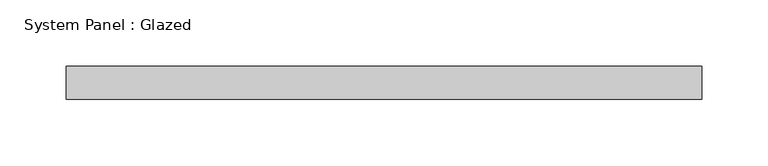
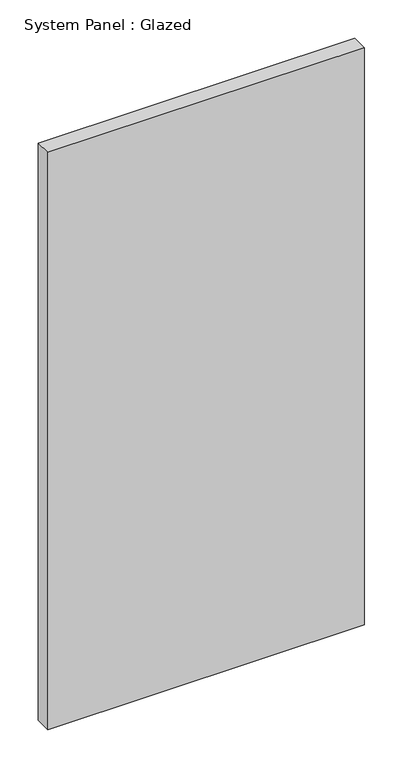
"""IFC4 building model written with IfcOpenShell, lengths in millimetres: plate geometry, System Panel : Glazed."""

from ifc_helpers import new_model, si_unit, origin, origin_with_axes, place, context, project, spatial, polyline, outline, extrude, source, transform, mapped, element, save


def system_panel_glazed_692667b3(model_context):
    return source(origin(), model_context, "Body", "SweptSolid", [
        extrude(outline(polyline([(240.0, 24.5), (-240.0, 24.5), (-240.0, 49.5), (240.0, 49.5), (240.0, 24.5)])), origin_with_axes(), (0.0, 0.0, 1.0), 925.0),
    ])


if __name__ == "__main__":
    model = new_model("IFC4")
    model_context = context("Model", 3, world=origin())
    ifc_project = project(units=[si_unit("LENGTHUNIT", "METRE", prefix="MILLI")], contexts=[model_context])
    site = spatial("IfcSite", under=ifc_project)
    building = spatial("IfcBuilding", under=site)
    placement = place(None, origin())
    system_panel_glazed_shape = system_panel_glazed_692667b3(model_context)
    element("IfcPlate", 1, ObjectType="System Panel : Glazed", at=placement, inside=building, context=model_context, shape_type="MappedRepresentation", body=[
        mapped(system_panel_glazed_shape, transform((0.0, 0.0, 0.0), x_axis=(1.0, 0.0, 0.0), y_axis=(0.0, 1.0, 0.0), z_axis=(0.0, 0.0, 1.0))),
    ])
    save(model, "model.ifc")
